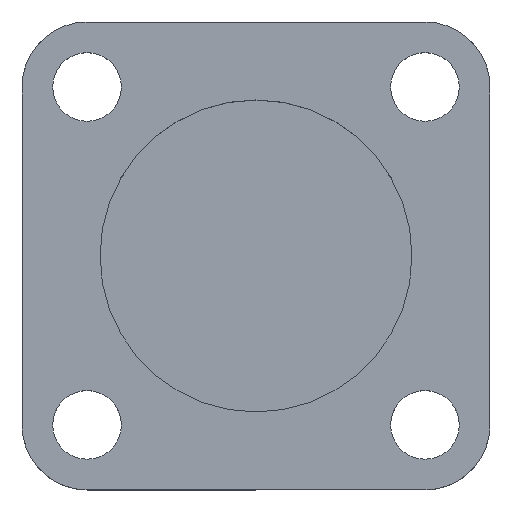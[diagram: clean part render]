
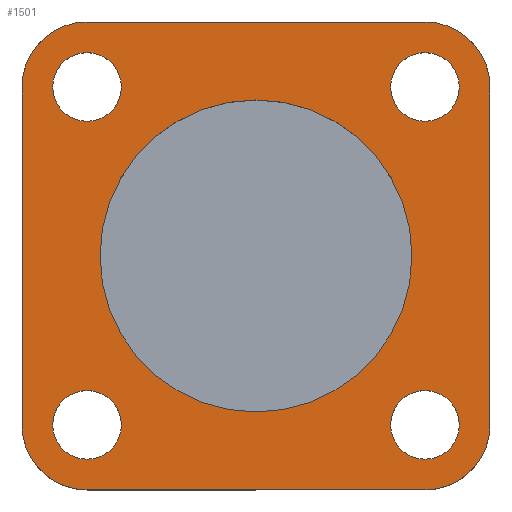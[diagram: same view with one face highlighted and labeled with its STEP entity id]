
A CAD part, top view. The second image highlights one B-rep face of the part: STEP entity #1501.
In plain terms, the highlighted planar face has unit normal (0, 0, 1) as drawn and (0, 0, -1) by its records, which use the part's own axes.
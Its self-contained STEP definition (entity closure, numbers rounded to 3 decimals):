
#143=CARTESIAN_POINT('',(15.,0.,-5.0));
#144=VERTEX_POINT('',#143);
#160=CARTESIAN_POINT('',(-15.,0.,-5.0));
#161=VERTEX_POINT('',#160);
#168=CARTESIAN_POINT('',(0.,0.,-5.0));
#169=DIRECTION('',(0.0,0.0,1.0));
#170=DIRECTION('',(1.0,0.0,0.0));
#171=AXIS2_PLACEMENT_3D('',#168,#169,#170);
#172=CIRCLE('',#171,15.0);
#173=EDGE_CURVE('',#144,#161,#172,.T.);
#183=CARTESIAN_POINT('',(19.55,16.25,-5.0));
#184=VERTEX_POINT('',#183);
#193=CARTESIAN_POINT('',(12.95,16.25,-5.0));
#194=VERTEX_POINT('',#193);
#195=CARTESIAN_POINT('',(16.25,16.25,-5.0));
#196=DIRECTION('',(0.0,0.0,1.0));
#197=DIRECTION('',(1.0,0.0,0.0));
#198=AXIS2_PLACEMENT_3D('',#195,#196,#197);
#199=CIRCLE('',#198,3.3);
#200=EDGE_CURVE('',#194,#184,#199,.T.);
#225=CARTESIAN_POINT('',(19.55,-16.25,-5.0));
#226=VERTEX_POINT('',#225);
#235=CARTESIAN_POINT('',(12.95,-16.25,-5.0));
#236=VERTEX_POINT('',#235);
#237=CARTESIAN_POINT('',(16.25,-16.25,-5.0));
#238=DIRECTION('',(0.0,0.0,1.0));
#239=DIRECTION('',(1.0,0.0,0.0));
#240=AXIS2_PLACEMENT_3D('',#237,#238,#239);
#241=CIRCLE('',#240,3.3);
#242=EDGE_CURVE('',#236,#226,#241,.T.);
#267=CARTESIAN_POINT('',(-12.95,-16.25,-5.0));
#268=VERTEX_POINT('',#267);
#277=CARTESIAN_POINT('',(-19.55,-16.25,-5.0));
#278=VERTEX_POINT('',#277);
#279=CARTESIAN_POINT('',(-16.25,-16.25,-5.0));
#280=DIRECTION('',(0.0,0.0,1.0));
#281=DIRECTION('',(1.0,0.0,0.0));
#282=AXIS2_PLACEMENT_3D('',#279,#280,#281);
#283=CIRCLE('',#282,3.3);
#284=EDGE_CURVE('',#278,#268,#283,.T.);
#309=CARTESIAN_POINT('',(-12.95,16.25,-5.0));
#310=VERTEX_POINT('',#309);
#319=CARTESIAN_POINT('',(-19.55,16.25,-5.0));
#320=VERTEX_POINT('',#319);
#321=CARTESIAN_POINT('',(-16.25,16.25,-5.0));
#322=DIRECTION('',(0.0,0.0,1.0));
#323=DIRECTION('',(1.0,0.0,0.0));
#324=AXIS2_PLACEMENT_3D('',#321,#322,#323);
#325=CIRCLE('',#324,3.3);
#326=EDGE_CURVE('',#320,#310,#325,.T.);
#1359=CARTESIAN_POINT('',(-22.5,16.25,-5.0));
#1360=VERTEX_POINT('',#1359);
#1367=CARTESIAN_POINT('',(-22.5,-16.25,-5.0));
#1368=VERTEX_POINT('',#1367);
#1369=CARTESIAN_POINT('',(-22.5,16.25,-5.0));
#1370=DIRECTION('',(0.0,-1.0,0.0));
#1371=VECTOR('',#1370,32.5);
#1372=LINE('',#1369,#1371);
#1373=EDGE_CURVE('',#1360,#1368,#1372,.T.);
#1385=CARTESIAN_POINT('',(0.,0.,-5.0));
#1386=DIRECTION('',(0.0,0.0,1.0));
#1387=DIRECTION('',(1.0,0.0,0.0));
#1388=AXIS2_PLACEMENT_3D('',#1385,#1386,#1387);
#1389=PLANE('',#1388);
#1390=CARTESIAN_POINT('',(-16.25,22.5,-5.0));
#1391=VERTEX_POINT('',#1390);
#1392=CARTESIAN_POINT('',(-16.25,16.25,-5.0));
#1393=DIRECTION('',(0.0,0.0,1.));
#1394=DIRECTION('',(-0.707,0.707,0.0));
#1395=AXIS2_PLACEMENT_3D('',#1392,#1393,#1394);
#1396=CIRCLE('',#1395,6.25);
#1397=EDGE_CURVE('',#1391,#1360,#1396,.T.);
#1398=ORIENTED_EDGE('',*,*,#1397,.F.);
#1399=CARTESIAN_POINT('',(16.25,22.5,-5.0));
#1400=VERTEX_POINT('',#1399);
#1401=CARTESIAN_POINT('',(16.25,22.5,-5.0));
#1402=DIRECTION('',(-1.0,0.0,0.0));
#1403=VECTOR('',#1402,32.5);
#1404=LINE('',#1401,#1403);
#1405=EDGE_CURVE('',#1400,#1391,#1404,.T.);
#1406=ORIENTED_EDGE('',*,*,#1405,.F.);
#1407=CARTESIAN_POINT('',(22.5,16.25,-5.0));
#1408=VERTEX_POINT('',#1407);
#1409=CARTESIAN_POINT('',(16.25,16.25,-5.0));
#1410=DIRECTION('',(0.0,0.0,1.));
#1411=DIRECTION('',(0.707,0.707,0.0));
#1412=AXIS2_PLACEMENT_3D('',#1409,#1410,#1411);
#1413=CIRCLE('',#1412,6.25);
#1414=EDGE_CURVE('',#1408,#1400,#1413,.T.);
#1415=ORIENTED_EDGE('',*,*,#1414,.F.);
#1416=CARTESIAN_POINT('',(22.5,-16.25,-5.0));
#1417=VERTEX_POINT('',#1416);
#1418=CARTESIAN_POINT('',(22.5,-16.25,-5.0));
#1419=DIRECTION('',(0.0,1.0,0.0));
#1420=VECTOR('',#1419,32.5);
#1421=LINE('',#1418,#1420);
#1422=EDGE_CURVE('',#1417,#1408,#1421,.T.);
#1423=ORIENTED_EDGE('',*,*,#1422,.F.);
#1424=CARTESIAN_POINT('',(16.25,-22.5,-5.0));
#1425=VERTEX_POINT('',#1424);
#1426=CARTESIAN_POINT('',(16.25,-16.25,-5.0));
#1427=DIRECTION('',(0.0,0.0,1.));
#1428=DIRECTION('',(0.707,-0.707,0.0));
#1429=AXIS2_PLACEMENT_3D('',#1426,#1427,#1428);
#1430=CIRCLE('',#1429,6.25);
#1431=EDGE_CURVE('',#1425,#1417,#1430,.T.);
#1432=ORIENTED_EDGE('',*,*,#1431,.F.);
#1433=CARTESIAN_POINT('',(-16.25,-22.5,-5.0));
#1434=VERTEX_POINT('',#1433);
#1435=CARTESIAN_POINT('',(-16.25,-22.5,-5.0));
#1436=DIRECTION('',(1.0,0.0,0.0));
#1437=VECTOR('',#1436,32.5);
#1438=LINE('',#1435,#1437);
#1439=EDGE_CURVE('',#1434,#1425,#1438,.T.);
#1440=ORIENTED_EDGE('',*,*,#1439,.F.);
#1441=CARTESIAN_POINT('',(-16.25,-16.25,-5.0));
#1442=DIRECTION('',(0.0,0.0,1.));
#1443=DIRECTION('',(-0.707,-0.707,0.0));
#1444=AXIS2_PLACEMENT_3D('',#1441,#1442,#1443);
#1445=CIRCLE('',#1444,6.25);
#1446=EDGE_CURVE('',#1368,#1434,#1445,.T.);
#1447=ORIENTED_EDGE('',*,*,#1446,.F.);
#1448=ORIENTED_EDGE('',*,*,#1373,.F.);
#1449=EDGE_LOOP('',(#1398,#1406,#1415,#1423,#1432,#1440,#1447,#1448));
#1450=FACE_OUTER_BOUND('',#1449,.T.);
#1451=ORIENTED_EDGE('',*,*,#326,.T.);
#1452=CARTESIAN_POINT('',(-16.25,16.25,-5.0));
#1453=DIRECTION('',(0.0,0.0,1.0));
#1454=DIRECTION('',(1.0,0.0,0.0));
#1455=AXIS2_PLACEMENT_3D('',#1452,#1453,#1454);
#1456=CIRCLE('',#1455,3.3);
#1457=EDGE_CURVE('',#310,#320,#1456,.T.);
#1458=ORIENTED_EDGE('',*,*,#1457,.T.);
#1459=EDGE_LOOP('',(#1451,#1458));
#1460=FACE_BOUND('',#1459,.T.);
#1461=ORIENTED_EDGE('',*,*,#284,.T.);
#1462=CARTESIAN_POINT('',(-16.25,-16.25,-5.0));
#1463=DIRECTION('',(0.0,0.0,1.0));
#1464=DIRECTION('',(1.0,0.0,0.0));
#1465=AXIS2_PLACEMENT_3D('',#1462,#1463,#1464);
#1466=CIRCLE('',#1465,3.3);
#1467=EDGE_CURVE('',#268,#278,#1466,.T.);
#1468=ORIENTED_EDGE('',*,*,#1467,.T.);
#1469=EDGE_LOOP('',(#1461,#1468));
#1470=FACE_BOUND('',#1469,.T.);
#1471=ORIENTED_EDGE('',*,*,#242,.T.);
#1472=CARTESIAN_POINT('',(16.25,-16.25,-5.0));
#1473=DIRECTION('',(0.0,0.0,1.0));
#1474=DIRECTION('',(1.0,0.0,0.0));
#1475=AXIS2_PLACEMENT_3D('',#1472,#1473,#1474);
#1476=CIRCLE('',#1475,3.3);
#1477=EDGE_CURVE('',#226,#236,#1476,.T.);
#1478=ORIENTED_EDGE('',*,*,#1477,.T.);
#1479=EDGE_LOOP('',(#1471,#1478));
#1480=FACE_BOUND('',#1479,.T.);
#1481=ORIENTED_EDGE('',*,*,#200,.T.);
#1482=CARTESIAN_POINT('',(16.25,16.25,-5.0));
#1483=DIRECTION('',(0.0,0.0,1.0));
#1484=DIRECTION('',(1.0,0.0,0.0));
#1485=AXIS2_PLACEMENT_3D('',#1482,#1483,#1484);
#1486=CIRCLE('',#1485,3.3);
#1487=EDGE_CURVE('',#184,#194,#1486,.T.);
#1488=ORIENTED_EDGE('',*,*,#1487,.T.);
#1489=EDGE_LOOP('',(#1481,#1488));
#1490=FACE_BOUND('',#1489,.T.);
#1491=ORIENTED_EDGE('',*,*,#173,.T.);
#1492=CARTESIAN_POINT('',(0.,0.,-5.0));
#1493=DIRECTION('',(0.0,0.0,1.0));
#1494=DIRECTION('',(1.0,0.0,0.0));
#1495=AXIS2_PLACEMENT_3D('',#1492,#1493,#1494);
#1496=CIRCLE('',#1495,15.0);
#1497=EDGE_CURVE('',#161,#144,#1496,.T.);
#1498=ORIENTED_EDGE('',*,*,#1497,.T.);
#1499=EDGE_LOOP('',(#1491,#1498));
#1500=FACE_BOUND('',#1499,.T.);
#1501=ADVANCED_FACE('',(#1450,#1460,#1470,#1480,#1490,#1500),#1389,.F.);
